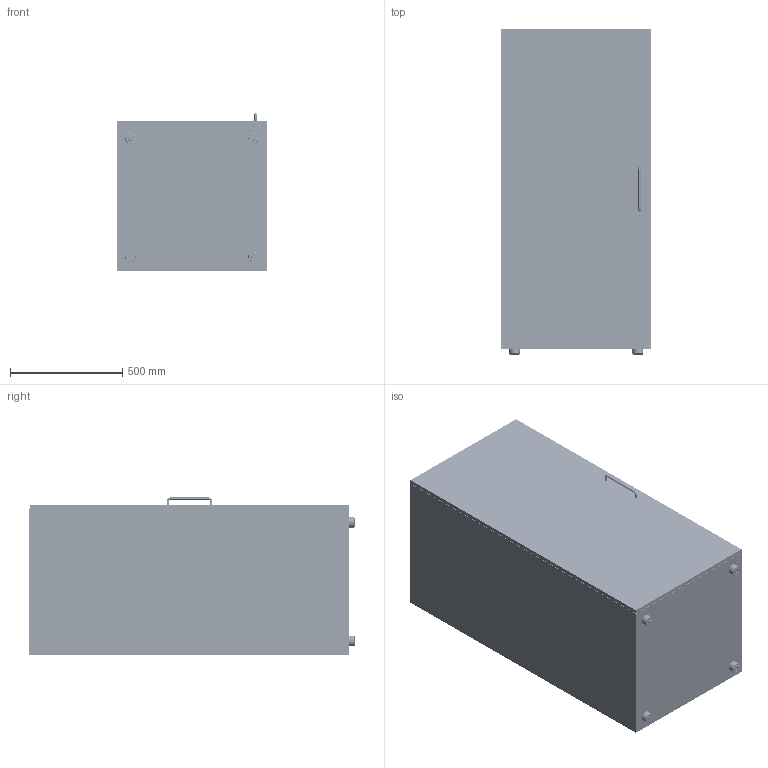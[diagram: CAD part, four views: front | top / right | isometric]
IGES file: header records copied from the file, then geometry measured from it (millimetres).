
Global section: file name: 3D Dosyası,; native system: Autodesk Inventor 2024; preprocessor: unknown; author: pc11; date: 20260115.094731; units: millimetre
Bounding box: 670 x 1451 x 701 mm (x, y, z)
Volume: 93101734.3 mm3; surface area: 12274910.4 mm2
Topology: 126 solids, 130 shells, 9328 faces, 26699 edges, 17910 vertices
Faces by surface type: bspline 9328
